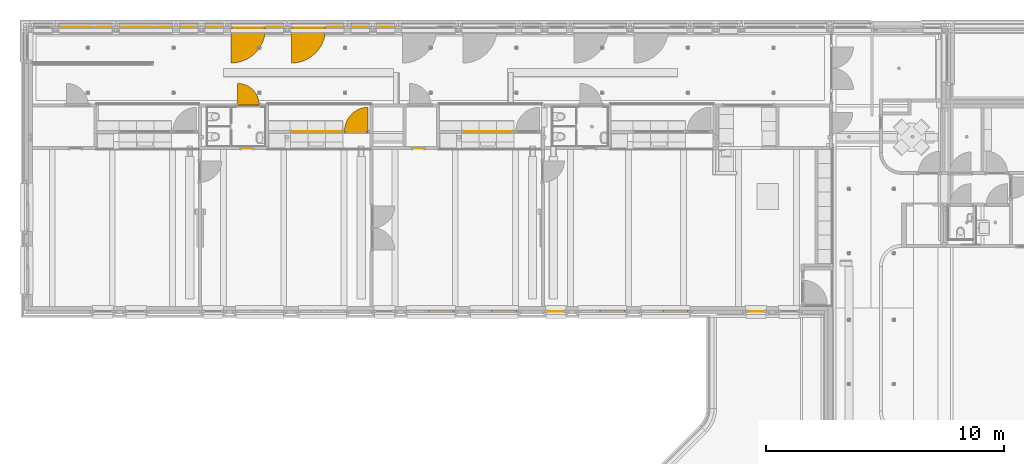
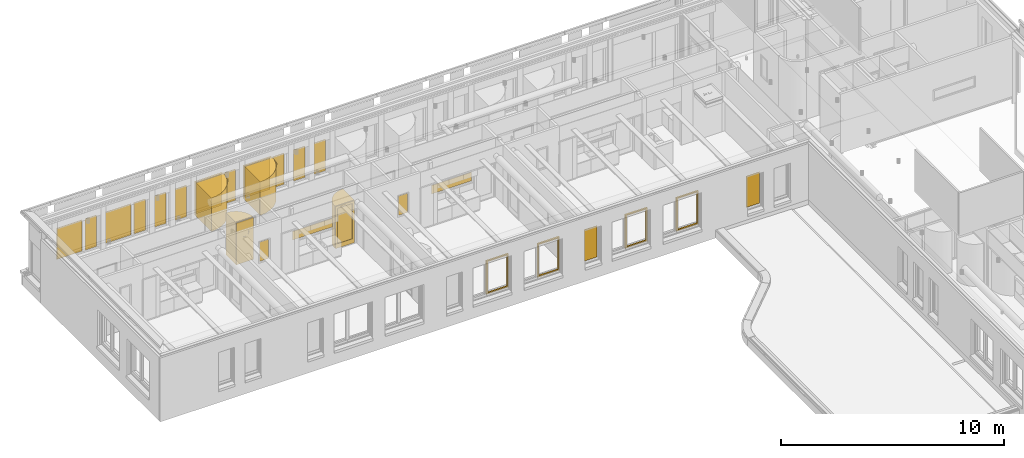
# One storey, part 68 of 128: 29 windows, 2 doors, 8 elements without a shape of their own.
"""IFC2X3 building model written with IfcOpenShell, lengths in millimetres."""

from ifc_helpers import new_model, entity, si_unit, converted_unit, derived_unit, direction, frame, frame_2d, origin, origin_2d_with_axis, place, context, subcontext, project, spatial, polyline, circle_curve, parameter, trimmed, segment, composite_curve, rectangle, circle, outline, extrude, source, transform, mapped, material, material_list, type_object, type_shapes, element, aggregate, save


model = new_model("IFC2X3")

# Units and contexts
model_context = context("Model", 3, precision=0.01, world=origin(), true_north=direction((6.123031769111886e-17, 1.0)))
body_context = subcontext(model_context, "Body", "Model", "MODEL_VIEW")
ifc_project = project(units=[si_unit("LENGTHUNIT", "METRE", prefix="MILLI"), si_unit("AREAUNIT", "SQUARE_METRE"), si_unit("VOLUMEUNIT", "CUBIC_METRE"), converted_unit("PLANEANGLEUNIT", "DEGREE", entity("IfcRatioMeasure", 0.017453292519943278), si_unit("PLANEANGLEUNIT", "RADIAN"), dimensions=[0, 0, 0, 0, 0, 0, 0]), si_unit("MASSUNIT", "GRAM", prefix="KILO"), derived_unit("MASSDENSITYUNIT", [(si_unit("MASSUNIT", "GRAM", prefix="KILO"), 1), (si_unit("LENGTHUNIT", "METRE"), -3)]), derived_unit("IONCONCENTRATIONUNIT", [(si_unit("MASSUNIT", "GRAM", prefix="KILO"), 1), (si_unit("LENGTHUNIT", "METRE"), -3)]), derived_unit("MOMENTOFINERTIAUNIT", [(si_unit("LENGTHUNIT", "METRE"), 4)]), si_unit("TIMEUNIT", "SECOND"), si_unit("FREQUENCYUNIT", "HERTZ"), si_unit("THERMODYNAMICTEMPERATUREUNIT", "DEGREE_CELSIUS"), derived_unit("THERMALTRANSMITTANCEUNIT", [(si_unit("MASSUNIT", "GRAM", prefix="KILO"), 1), (si_unit("THERMODYNAMICTEMPERATUREUNIT", "KELVIN"), -1), (si_unit("TIMEUNIT", "SECOND"), -3)]), derived_unit("THERMALCONDUCTANCEUNIT", [(si_unit("MASSUNIT", "GRAM", prefix="KILO"), 1), (si_unit("THERMODYNAMICTEMPERATUREUNIT", "KELVIN"), -1), (si_unit("TIMEUNIT", "SECOND"), -3), (si_unit("LENGTHUNIT", "METRE"), 1)]), derived_unit("VOLUMETRICFLOWRATEUNIT", [(si_unit("LENGTHUNIT", "METRE"), 3), (si_unit("TIMEUNIT", "SECOND"), -1)]), derived_unit("MASSFLOWRATEUNIT", [(si_unit("MASSUNIT", "GRAM", prefix="KILO"), 1), (si_unit("TIMEUNIT", "SECOND"), -1)]), derived_unit("ROTATIONALFREQUENCYUNIT", [(si_unit("TIMEUNIT", "SECOND"), -1)]), si_unit("ELECTRICCURRENTUNIT", "AMPERE"), si_unit("ELECTRICVOLTAGEUNIT", "VOLT"), si_unit("POWERUNIT", "WATT"), si_unit("FORCEUNIT", "NEWTON", prefix="KILO"), si_unit("ILLUMINANCEUNIT", "LUX"), si_unit("LUMINOUSFLUXUNIT", "LUMEN"), si_unit("LUMINOUSINTENSITYUNIT", "CANDELA"), derived_unit("USERDEFINED", [(si_unit("MASSUNIT", "GRAM", prefix="KILO"), -1), (si_unit("LENGTHUNIT", "METRE"), -2), (si_unit("TIMEUNIT", "SECOND"), 3), (si_unit("LUMINOUSFLUXUNIT", "LUMEN"), 1)]), derived_unit("USERDEFINED", [(si_unit("MASSUNIT", "GRAM", prefix="KILO"), 1), (si_unit("TIMEUNIT", "SECOND"), -3), (si_unit("LENGTHUNIT", "METRE"), 3), (si_unit("ELECTRICCURRENTUNIT", "AMPERE"), -2)]), derived_unit("SOUNDPOWERUNIT", [(si_unit("MASSUNIT", "GRAM", prefix="KILO"), 1), (si_unit("TIMEUNIT", "SECOND"), -3), (si_unit("LENGTHUNIT", "METRE"), 2)]), derived_unit("SOUNDPRESSUREUNIT", [(si_unit("MASSUNIT", "GRAM", prefix="KILO"), 1), (si_unit("LENGTHUNIT", "METRE"), -1), (si_unit("TIMEUNIT", "SECOND"), -2)]), derived_unit("LINEARVELOCITYUNIT", [(si_unit("LENGTHUNIT", "METRE"), 1), (si_unit("TIMEUNIT", "SECOND"), -1)]), si_unit("PRESSUREUNIT", "PASCAL"), derived_unit("USERDEFINED", [(si_unit("MASSUNIT", "GRAM", prefix="KILO"), 1), (si_unit("LENGTHUNIT", "METRE"), -2), (si_unit("TIMEUNIT", "SECOND"), -2)]), derived_unit("LINEARFORCEUNIT", [(si_unit("MASSUNIT", "GRAM", prefix="KILO"), 1), (si_unit("TIMEUNIT", "SECOND"), -2)]), derived_unit("PLANARFORCEUNIT", [(si_unit("MASSUNIT", "GRAM", prefix="KILO"), 1), (si_unit("LENGTHUNIT", "METRE"), -1), (si_unit("TIMEUNIT", "SECOND"), -2)]), derived_unit("SPECIFICHEATCAPACITYUNIT", [(si_unit("THERMODYNAMICTEMPERATUREUNIT", "KELVIN"), -1), (si_unit("LENGTHUNIT", "METRE"), 2), (si_unit("TIMEUNIT", "SECOND"), -2)]), derived_unit("HEATINGVALUEUNIT", [(si_unit("LENGTHUNIT", "METRE"), 2), (si_unit("TIMEUNIT", "SECOND"), -2)]), derived_unit("VAPORPERMEABILITYUNIT", [(si_unit("LENGTHUNIT", "METRE"), -1), (si_unit("TIMEUNIT", "SECOND"), 1)]), derived_unit("DYNAMICVISCOSITYUNIT", [(si_unit("MASSUNIT", "GRAM", prefix="KILO"), 1), (si_unit("TIMEUNIT", "SECOND"), -1), (si_unit("LENGTHUNIT", "METRE"), -1)]), derived_unit("THERMALEXPANSIONCOEFFICIENTUNIT", [(si_unit("THERMODYNAMICTEMPERATUREUNIT", "KELVIN"), -1)]), derived_unit("MODULUSOFELASTICITYUNIT", [(si_unit("MASSUNIT", "GRAM", prefix="KILO"), 1), (si_unit("LENGTHUNIT", "METRE"), -1), (si_unit("TIMEUNIT", "SECOND"), -2)]), derived_unit("ISOTHERMALMOISTURECAPACITYUNIT", [(si_unit("LENGTHUNIT", "METRE"), 3), (si_unit("MASSUNIT", "GRAM", prefix="KILO"), -1)]), derived_unit("MOISTUREDIFFUSIVITYUNIT", [(si_unit("TIMEUNIT", "SECOND"), -1), (si_unit("LENGTHUNIT", "METRE"), 2)])], contexts=[model_context])

# Site, building, storey
site_placement = place(None, frame((0.0, 300.0, 0.0)))
site = spatial("IfcSite", under=ifc_project, at=site_placement, Name="<Kadastrale nummers>", CompositionType="ELEMENT")
building_placement = place(site_placement, origin())
building = spatial("IfcBuilding", under=site, at=building_placement, CompositionType="ELEMENT")
storey_placement = place(building_placement, frame((0.0, 0.0, 3560.0000331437)))
storey = spatial("IfcBuildingStorey", under=building, at=storey_placement, Name="01 eerste verdieping", CompositionType="ELEMENT", Elevation=3560.0000331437)

# Window
ifc_material_1 = material(Name="Clearance Zones")
window_style_1 = type_object("IfcWindowStyle", Name="BU deur links:BU deur links", ConstructionType="NOTDEFINED", OperationType="NOTDEFINED", ParameterTakesPrecedence=False, Sizeable=False, material=ifc_material_1)
shared_shape_1 = source(origin(), body_context, "Body", "SweptSolid", [
    extrude(outline(composite_curve([segment(trimmed(circle_curve(frame_2d((300.0, 300.0), x_axis=(1.0, 0.0)), 900.0000000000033), [parameter(180.00000000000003)], [parameter(269.9999999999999)], True, "PARAMETER"), True, "CONTINUOUS"), segment(polyline([(300.0, -600.0), (300.0, 300.0)]), True, "CONTINUOUS"), segment(polyline([(300.0, 300.0), (-600.0, 300.0)]), True, "CONTINUOUS")], self_intersect=False)), frame((-150.0, 327.0, -20.0), z_axis=(0.0, 0.0, 1.0), x_axis=(-1.0, 0.0, 0.0)), (0.0, 0.0, 1.0), 2303.0000000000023),
])
type_shapes(window_style_1, [shared_shape_1])
window_1_placement = place(storey_placement, frame((12169.001376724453, 46633.249999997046, 130.00000187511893)))
element("IfcWindow", 1, at=window_1_placement, inside=storey, type_object=window_style_1, material=ifc_material_1, Name="BU deur links:BU deur links", ObjectType="BU deur links:BU deur links", OverallHeight=1184.0000000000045, OverallWidth=900.0000000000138, context=body_context, shape_type="MappedRepresentation", body=[
    mapped(shared_shape_1, transform((0.0, 0.0, 0.0), scale=1.0)),
])

# Curtain wall, door
curtain_wall_type_1 = type_object("IfcCurtainWallType", Name="Curtain Wall:Merk H09", PredefinedType="NOTDEFINED")
curtain_wall_1_placement = place(storey_placement, frame((0.0, 0.0, -3560.0000331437)))
curtain_wall_1 = element("IfcCurtainWall", 2, at=curtain_wall_1_placement, inside=storey, type_object=curtain_wall_type_1, Name="Curtain Wall:Merk H09", ObjectType="Curtain Wall:Merk H09")
ifc_material_2 = material(Name="ISR_HPL Kleur hout")
door_style_1 = type_object("IfcDoorStyle", Name="31_DO_deur_met_stapeldorpel:deur_met_stapeldorpel", ConstructionType="NOTDEFINED", OperationType="NOTDEFINED", ParameterTakesPrecedence=False, Sizeable=False, material=ifc_material_2)
shared_shape_2 = source(origin(), body_context, "Body", "SweptSolid", [
    extrude(outline(polyline([(-500.0, -1151.4999999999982), (500.0, -1151.4999999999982), (500.0, 1151.4999999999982), (-500.0, 1151.4999999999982), (-500.0, -1151.4999999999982)]), holes=[polyline([(-380.0, 911.499999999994), (380.0, 911.4999999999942), (380.0, -1031.4999999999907), (-380.0, -1031.499999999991), (-380.0, 911.499999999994)])]), frame((0.0, 57.0, 1151.5000000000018), z_axis=(0.0, 1.0, 0.0), x_axis=(1.0, 0.0, 0.0)), (0.0, 0.0, 1.0), 26.999999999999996),
    extrude(outline(polyline([(-500.0, -1151.4999999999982), (500.0, -1151.4999999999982), (500.0, 1151.4999999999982), (-500.0, 1151.4999999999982), (-500.0, -1151.4999999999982)]), holes=[polyline([(-380.0, 911.4999999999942), (380.0, 911.4999999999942), (380.0, -1031.4999999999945), (-380.0, -1031.4999999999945), (-380.0, 911.4999999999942)])]), frame((0.0, 30.0, 1151.5000000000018), z_axis=(0.0, 1.0, 0.0), x_axis=(1.0, 0.0, 0.0)), (0.0, 0.0, 1.0), 26.99999999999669),
])
type_shapes(door_style_1, [shared_shape_2])
door_1_placement = place(curtain_wall_1_placement, frame((16703.0, 45476.0, 3670.0000350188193)))
door_1 = element("IfcDoor", 3, at=door_1_placement, type_object=door_style_1, material=ifc_material_2, Name="31_DO_deur_met_stapeldorpel:deur_met_stapeldorpel", ObjectType="31_DO_deur_met_stapeldorpel:deur_met_stapeldorpel", OverallHeight=2303.0000000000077, OverallWidth=1000.0000000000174, context=body_context, shape_type="MappedRepresentation", body=[
    mapped(shared_shape_2, transform((0.0, 0.0, 0.0), scale=1.0)),
])
aggregate(curtain_wall_1, [door_1])

curtain_wall_type_2 = type_object("IfcCurtainWallType", Name="Curtain Wall:Merk H01", PredefinedType="NOTDEFINED")
curtain_wall_2_placement = place(storey_placement, frame((0.0, 0.0, -3560.0000331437)))
curtain_wall_2 = element("IfcCurtainWall", 4, at=curtain_wall_2_placement, inside=storey, type_object=curtain_wall_type_2, Name="Curtain Wall:Merk H01", ObjectType="Curtain Wall:Merk H01")
ifc_material_3 = material(Name="ISR_Kunststof_wit")
ifc_material_4 = material(Name="ISR_Mass_Glazing")
ifc_material_list = material_list([ifc_material_3, ifc_material_4])
door_style_2 = type_object("IfcDoorStyle", Name="31_DO_Rondgat_deur:dichte_deur", ConstructionType="NOTDEFINED", OperationType="NOTDEFINED", ParameterTakesPrecedence=False, Sizeable=False, material=ifc_material_list)
shared_shape_3 = source(origin(), body_context, "Body", "SweptSolid", [
    extrude(outline(polyline([(-450.0, -1151.5000000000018), (450.0, -1151.5000000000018), (450.0, 1151.4999999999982), (-450.0, 1151.5000000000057), (-450.0, -1151.5000000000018)]), holes=[composite_curve([segment(trimmed(circle_curve(frame_2d((0.0, -448.5000000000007), x_axis=(1.0, 0.0)), 200.0), [parameter(4.0711099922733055e-13)], [parameter(179.99999999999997)], True, "PARAMETER"), False, "CONTINUOUS"), segment(trimmed(circle_curve(frame_2d((0.0, -448.5000000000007), x_axis=(1.0, 0.0)), 200.0), [parameter(179.99999999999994)], [parameter(359.9999999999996)], True, "PARAMETER"), False, "CONTINUOUS")], self_intersect=False)]), frame((0.0, 57.0, 1151.5000000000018), z_axis=(0.0, -1.0, 0.0), x_axis=(-1.0, 0.0, 0.0)), (0.0, 0.0, 1.0), 26.999999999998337),
    extrude(outline(polyline([(-450.0, -1151.500000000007), (450.0, -1151.500000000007), (450.0, 1151.499999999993), (-450.0, 1151.5000000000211), (-450.0, -1151.500000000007)]), holes=[composite_curve([segment(trimmed(circle_curve(frame_2d((0.0, -448.49999999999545), x_axis=(1.0, 0.0)), 200.0), [parameter(4.0711099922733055e-13)], [parameter(179.99999999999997)], True, "PARAMETER"), False, "CONTINUOUS"), segment(trimmed(circle_curve(frame_2d((0.0, -448.49999999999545), x_axis=(1.0, 0.0)), 200.0), [parameter(179.99999999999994)], [parameter(359.9999999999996)], True, "PARAMETER"), False, "CONTINUOUS")], self_intersect=False)]), frame((0.0, 84.0, 1151.500000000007), z_axis=(0.0, -1.0, 0.0), x_axis=(-1.0, 0.0, 0.0)), (0.0, 0.0, 1.0), 26.999999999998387),
    extrude(circle(Radius=200.0, at=frame_2d((0.0, -2.707167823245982e-13), x_axis=(1.0, 0.0))), frame((0.0, 66.449031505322, 1600.0), z_axis=(0.0, -1.0, 0.0), x_axis=(1.0, 0.0, 0.0)), (0.0, 0.0, 1.0), 25.1297239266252),
])
type_shapes(door_style_2, [shared_shape_3])
door_2_placement = place(curtain_wall_2_placement, frame((12169.00137672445, 46606.0, 3670.00003501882)))
door_2 = element("IfcDoor", 5, at=door_2_placement, type_object=door_style_2, material=ifc_material_list, Name="31_DO_Rondgat_deur:dichte_deur", ObjectType="31_DO_Rondgat_deur:dichte_deur", OverallHeight=2303.000000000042, OverallWidth=900.0000000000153, context=body_context, shape_type="MappedRepresentation", body=[
    mapped(shared_shape_3, transform((0.0, 0.0, 0.0), scale=1.0)),
])
aggregate(curtain_wall_2, [door_2])

# Windows
ifc_material_5 = material(Name="glas_enscape")
window_style_2 = type_object("IfcWindowStyle", Name="WI_subvak1:glas 4", ConstructionType="NOTDEFINED", OperationType="NOTDEFINED", ParameterTakesPrecedence=False, Sizeable=False, material=ifc_material_5)
shared_shape_4 = source(origin(), body_context, "Body", "SweptSolid", [
    extrude(rectangle(XDim=24.000000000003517, YDim=466.0000000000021, at=origin_2d_with_axis()), frame((0.0, 0.0, 0.0), z_axis=(0.0, 0.0, 1.0), x_axis=(0.0, -1.0, 0.0)), (0.0, 0.0, 1.0), 1055.9999999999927),
])
type_shapes(window_style_2, [shared_shape_4])
for number, where, z_axis, x_axis, name in (
    (6, (19305.0, 44832.0, 1357.0), (0.0, 0.0, 1.0), (-1.0, 0.0, 0.0), "WI_subvak1:glas 4"),
    (7, (12105.0, 44832.0, 1357.0), (0.0, 0.0, 1.0), (-1.0, 0.0, 0.0), "WI_subvak1:glas 4"),
):
    element("IfcWindow", number, at=place(storey_placement, frame(where, z_axis=z_axis, x_axis=x_axis)), inside=storey, type_object=window_style_2, material=ifc_material_5, Name=name, ObjectType="WI_subvak1:glas 4", OverallHeight=609.9286498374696, OverallWidth=466.00000000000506, context=body_context, shape_type="MappedRepresentation", body=[
        mapped(shared_shape_4, transform((0.0, 0.0, 0.0), scale=1.0)),
    ])
window_style_3 = type_object("IfcWindowStyle", Name="WI_subvak1:glas 4", ConstructionType="NOTDEFINED", OperationType="NOTDEFINED", ParameterTakesPrecedence=False, Sizeable=False, material=ifc_material_5)
shared_shape_5 = source(origin(), body_context, "Body", "SweptSolid", [
    extrude(rectangle(XDim=24.000000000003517, YDim=2071.0000000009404, at=frame_2d((0.0, 1.1368683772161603e-13), x_axis=(1.0, 0.0))), frame((0.0, 0.0, 0.0), z_axis=(0.0, 0.0, 1.0), x_axis=(0.0, -1.0, 0.0)), (0.0, 0.0, 1.0), 465.9999999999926),
])
type_shapes(window_style_3, [shared_shape_5])
for number, where, name in (
    (8, (22233.499999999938, 45533.0, 1357.0), "WI_subvak1:glas 4"),
    (9, (15033.500000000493, 45533.0, 1357.0), "WI_subvak1:glas 4"),
):
    element("IfcWindow", number, at=place(storey_placement, frame(where)), inside=storey, type_object=window_style_3, material=ifc_material_5, Name=name, ObjectType="WI_subvak1:glas 4", OverallHeight=609.9286498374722, OverallWidth=2071.0000000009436, context=body_context, shape_type="MappedRepresentation", body=[
        mapped(shared_shape_5, transform((0.0, 0.0, 0.0), scale=1.0)),
    ])
window_style_4 = type_object("IfcWindowStyle", Name="WI_subvak1:glas 2", ConstructionType="NOTDEFINED", OperationType="NOTDEFINED", ParameterTakesPrecedence=False, Sizeable=False, material=ifc_material_5)
shared_shape_6 = source(origin(), body_context, "Body", "SweptSolid", [
    extrude(rectangle(XDim=24.000000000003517, YDim=759.9999999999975, at=frame_2d((0.0, -2.842170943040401e-14), x_axis=(1.0, 0.0))), frame((0.0, 0.0, 0.0), z_axis=(0.0, 0.0, 1.0), x_axis=(0.0, -1.0, 0.0)), (0.0, 0.0, 1.0), 1942.999999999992),
])
type_shapes(window_style_4, [shared_shape_6])
window_2_placement = place(storey_placement, frame((16703.0, 45533.0, 350.00000187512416)))
element("IfcWindow", 10, at=window_2_placement, inside=storey, type_object=window_style_4, material=ifc_material_5, Name="WI_subvak1:glas 2", ObjectType="WI_subvak1:glas 2", OverallHeight=609.9286498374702, OverallWidth=760.0000000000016, context=body_context, shape_type="MappedRepresentation", body=[
    mapped(shared_shape_6, transform((0.0, 0.0, 0.0), scale=1.0)),
])
window_style_5 = type_object("IfcWindowStyle", Name="BU deur links:BU deur links", ConstructionType="NOTDEFINED", OperationType="NOTDEFINED", ParameterTakesPrecedence=False, Sizeable=False, material=ifc_material_1)
shared_shape_7 = source(origin(), body_context, "Body", "SweptSolid", [
    extrude(outline(composite_curve([segment(polyline([(-666.6666666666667, -333.33333333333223), (333.3333333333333, -333.33333333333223)]), True, "CONTINUOUS"), segment(polyline([(333.3333333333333, -333.33333333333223), (333.33333333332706, 666.6666666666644)]), True, "CONTINUOUS"), segment(trimmed(circle_curve(frame_2d((333.3333333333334, -333.33333333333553), x_axis=(1.0, 0.0)), 1000.0000000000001), [parameter(90.00000000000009)], [parameter(179.99999999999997)], True, "PARAMETER"), True, "CONTINUOUS")], self_intersect=False)), frame((-166.66666666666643, -360.3333333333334, -20.0), z_axis=(0.0, 0.0, 1.0), x_axis=(-1.0, 0.0, 0.0)), (0.0, 0.0, 1.0), 2303.0000000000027),
])
type_shapes(window_style_5, [shared_shape_7])
window_3_placement = place(storey_placement, frame((16703.0, 45533.0, 130.00000187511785), z_axis=(0.0, 0.0, 1.0), x_axis=(-1.0, 0.0, 0.0)))
element("IfcWindow", 11, at=window_3_placement, inside=storey, type_object=window_style_5, material=ifc_material_1, Name="BU deur links:BU deur links", ObjectType="BU deur links:BU deur links", OverallHeight=1284.0000000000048, OverallWidth=1000.0000000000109, context=body_context, shape_type="MappedRepresentation", body=[
    mapped(shared_shape_7, transform((0.0, 0.0, 0.0), scale=1.0)),
])

# Curtain wall, window
curtain_wall_type_3 = type_object("IfcCurtainWallType", Name="Curtain Wall:K_22", PredefinedType="NOTDEFINED")
curtain_wall_3_placement = place(storey_placement, frame((0.0, 0.0, -3560.0000331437)))
curtain_wall_3 = element("IfcCurtainWall", 12, at=curtain_wall_3_placement, inside=storey, type_object=curtain_wall_type_3, Name="Curtain Wall:K_22", ObjectType="Curtain Wall:K_22")
ifc_material_6 = material(Name="ISR_Aluminium")
window_style_6 = type_object("IfcWindowStyle", Name="31_WI_raam_1:GEALAN KUBUS RAAM", ConstructionType="NOTDEFINED", OperationType="NOTDEFINED", ParameterTakesPrecedence=False, Sizeable=False, material=ifc_material_6)
shared_shape_8 = source(origin(), body_context, "Body", "SweptSolid", [
    extrude(outline(polyline([(-717.0, -918.9999824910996), (717.0, -918.9999824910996), (717.0, 918.9999824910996), (-717.0, 918.9999824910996), (-717.0, -918.9999824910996)]), holes=[polyline([(-653.0, 854.9999824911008), (653.0, 854.9999824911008), (653.0, -854.9999824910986), (-653.0, -854.9999824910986), (-653.0, 854.9999824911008)])]), frame((0.0, 63.0, 854.9999824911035), z_axis=(0.0, -1.0, 0.0), x_axis=(-1.0, 0.0, 0.0)), (0.0, 0.0, 1.0), 40.50000000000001),
    extrude(outline(polyline([(-717.0, -918.9999824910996), (717.0, -918.9999824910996), (717.0, 918.9999824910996), (-717.0, 918.9999824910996), (-717.0, -918.9999824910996)]), holes=[polyline([(-653.0, 854.9999824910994), (653.0, 854.9999824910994), (653.0, -854.9999824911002), (-653.0, -854.9999824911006), (-653.0, 854.9999824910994)])]), frame((0.0, 22.499999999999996, 854.9999824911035), z_axis=(0.0, -1.0, 0.0), x_axis=(-1.0, 0.0, 0.0)), (0.0, 0.0, 1.0), 40.5),
])
type_shapes(window_style_6, [shared_shape_8])
window_4_placement = place(curtain_wall_3_placement, frame((14693.0, 49868.0, 4580.0000331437)))
window_4 = element("IfcWindow", 13, at=window_4_placement, type_object=window_style_6, material=ifc_material_6, Name="31_WI_raam_1:GEALAN KUBUS RAAM", ObjectType="31_WI_raam_1:GEALAN KUBUS RAAM", OverallHeight=1853.9999649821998, OverallWidth=1434.0000000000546, context=body_context, shape_type="MappedRepresentation", body=[
    mapped(shared_shape_8, transform((0.0, 0.0, 0.0), scale=1.0)),
])
aggregate(curtain_wall_3, [window_4])

curtain_wall_4_placement = place(storey_placement, frame((0.0, 0.0, -3560.0000331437)))
curtain_wall_4 = element("IfcCurtainWall", 14, at=curtain_wall_4_placement, inside=storey, type_object=curtain_wall_type_3, Name="Curtain Wall:K_22", ObjectType="Curtain Wall:K_22")
window_5_placement = place(curtain_wall_4_placement, frame((12163.0, 49868.0, 4580.0000331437)))
window_5 = element("IfcWindow", 15, at=window_5_placement, type_object=window_style_6, material=ifc_material_6, Name="31_WI_raam_1:GEALAN KUBUS RAAM", ObjectType="31_WI_raam_1:GEALAN KUBUS RAAM", OverallHeight=1853.9999649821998, OverallWidth=1434.0000000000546, context=body_context, shape_type="MappedRepresentation", body=[
    mapped(shared_shape_8, transform((0.0, 0.0, 0.0), scale=1.0)),
])
aggregate(curtain_wall_4, [window_5])

curtain_wall_type_4 = type_object("IfcCurtainWallType", Name="Curtain Wall:K_24", PredefinedType="NOTDEFINED")
curtain_wall_5_placement = place(storey_placement, frame((0.0, 0.0, -3560.0000331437)))
curtain_wall_5 = element("IfcCurtainWall", 16, at=curtain_wall_5_placement, inside=storey, type_object=curtain_wall_type_4, Name="Curtain Wall:K_24", ObjectType="Curtain Wall:K_24")
window_style_7 = type_object("IfcWindowStyle", Name="31_WI_raam_1:GEALAN KUBUS RAAM", ConstructionType="NOTDEFINED", OperationType="NOTDEFINED", ParameterTakesPrecedence=False, Sizeable=False, material=ifc_material_6)
shared_shape_9 = source(origin(), body_context, "Body", "SweptSolid", [
    extrude(outline(polyline([(-567.0, -919.0), (567.0, -919.0), (567.0, 919.0), (-567.0, 919.0), (-567.0, -919.0)]), holes=[polyline([(-503.0, 855.0), (503.0, 855.0), (503.0, -855.0), (-503.0, -855.0), (-503.0, 855.0)])]), frame((0.0, 63.0, 855.0), z_axis=(0.0, -1.0, 0.0), x_axis=(-1.0, 0.0, 0.0)), (0.0, 0.0, 1.0), 40.50000000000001),
    extrude(outline(polyline([(-567.0, -919.0), (567.0, -919.0), (567.0, 919.0), (-567.0, 919.0), (-567.0, -919.0)]), holes=[polyline([(-503.0, 855.0), (503.0, 855.0), (503.0, -855.0), (-503.0, -855.0), (-503.0, 855.0)])]), frame((0.0, 22.499999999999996, 855.0), z_axis=(0.0, -1.0, 0.0), x_axis=(-1.0, 0.0, 0.0)), (0.0, 0.0, 1.0), 40.5),
])
type_shapes(window_style_7, [shared_shape_9])
window_6_placement = place(curtain_wall_5_placement, frame((22907.0, 38031.99862327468, 4580.0000331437), z_axis=(0.0, 0.0, 1.0), x_axis=(-1.0, 0.0, 0.0)))
window_6 = element("IfcWindow", 17, at=window_6_placement, type_object=window_style_7, material=ifc_material_6, Name="31_WI_raam_1:GEALAN KUBUS RAAM", ObjectType="31_WI_raam_1:GEALAN KUBUS RAAM", OverallHeight=1854.0000000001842, OverallWidth=1134.0000000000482, context=body_context, shape_type="MappedRepresentation", body=[
    mapped(shared_shape_9, transform((0.0, 0.0, 0.0), scale=1.0)),
])
aggregate(curtain_wall_5, [window_6])

curtain_wall_6_placement = place(storey_placement, frame((0.0, 0.0, -3560.0000331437)))
curtain_wall_6 = element("IfcCurtainWall", 18, at=curtain_wall_6_placement, inside=storey, type_object=curtain_wall_type_4, Name="Curtain Wall:K_24", ObjectType="Curtain Wall:K_24")
window_7_placement = place(curtain_wall_6_placement, frame((20257.0, 38031.99862327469, 4580.0000331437), z_axis=(0.0, 0.0, 1.0), x_axis=(-1.0, 0.0, 0.0)))
window_7 = element("IfcWindow", 19, at=window_7_placement, type_object=window_style_7, material=ifc_material_6, Name="31_WI_raam_1:GEALAN KUBUS RAAM", ObjectType="31_WI_raam_1:GEALAN KUBUS RAAM", OverallHeight=1854.0000000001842, OverallWidth=1134.0000000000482, context=body_context, shape_type="MappedRepresentation", body=[
    mapped(shared_shape_9, transform((0.0, 0.0, 0.0), scale=1.0)),
])
aggregate(curtain_wall_6, [window_7])

curtain_wall_7_placement = place(storey_placement, frame((0.0, 0.0, -3560.0000331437)))
curtain_wall_7 = element("IfcCurtainWall", 20, at=curtain_wall_7_placement, inside=storey, type_object=curtain_wall_type_4, Name="Curtain Wall:K_24", ObjectType="Curtain Wall:K_24")
window_8_placement = place(curtain_wall_7_placement, frame((30107.0, 38031.99862327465, 4580.0000331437), z_axis=(0.0, 0.0, 1.0), x_axis=(-1.0, 0.0, 0.0)))
window_8 = element("IfcWindow", 21, at=window_8_placement, type_object=window_style_7, material=ifc_material_6, Name="31_WI_raam_1:GEALAN KUBUS RAAM", ObjectType="31_WI_raam_1:GEALAN KUBUS RAAM", OverallHeight=1854.0000000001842, OverallWidth=1134.0000000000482, context=body_context, shape_type="MappedRepresentation", body=[
    mapped(shared_shape_9, transform((0.0, 0.0, 0.0), scale=1.0)),
])
aggregate(curtain_wall_7, [window_8])

curtain_wall_8_placement = place(storey_placement, frame((0.0, 0.0, -3560.0000331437)))
curtain_wall_8 = element("IfcCurtainWall", 22, at=curtain_wall_8_placement, inside=storey, type_object=curtain_wall_type_4, Name="Curtain Wall:K_24", ObjectType="Curtain Wall:K_24")
window_9_placement = place(curtain_wall_8_placement, frame((27457.0, 38031.998623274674, 4580.0000331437), z_axis=(0.0, 0.0, 1.0), x_axis=(-1.0, 0.0, 0.0)))
window_9 = element("IfcWindow", 23, at=window_9_placement, type_object=window_style_7, material=ifc_material_6, Name="31_WI_raam_1:GEALAN KUBUS RAAM", ObjectType="31_WI_raam_1:GEALAN KUBUS RAAM", OverallHeight=1854.0000000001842, OverallWidth=1134.0000000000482, context=body_context, shape_type="MappedRepresentation", body=[
    mapped(shared_shape_9, transform((0.0, 0.0, 0.0), scale=1.0)),
])
aggregate(curtain_wall_8, [window_9])

# Windows
window_style_8 = type_object("IfcWindowStyle", Name="WI_subvak1:glas 4", ConstructionType="NOTDEFINED", OperationType="NOTDEFINED", ParameterTakesPrecedence=False, Sizeable=False, material=ifc_material_5)
shared_shape_10 = source(origin(), body_context, "Body", "SweptSolid", [
    extrude(rectangle(XDim=680.000000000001, YDim=24.00000000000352, at=origin_2d_with_axis()), origin(), (0.0, 0.0, 1.0), 1710.0000000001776),
])
type_shapes(window_style_8, [shared_shape_10])
for number, where, name in (
    (24, (25080.0, 37975.0, 1020.0), "WI_subvak1:glas 4"),
    (25, (33494.0, 37975.0, 1020.0), "WI_subvak1:glas 4"),
):
    element("IfcWindow", number, at=place(storey_placement, frame(where)), inside=storey, type_object=window_style_8, material=ifc_material_5, Name=name, ObjectType="WI_subvak1:glas 4", OverallHeight=609.9286498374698, OverallWidth=680.0000000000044, context=body_context, shape_type="MappedRepresentation", body=[
        mapped(shared_shape_10, transform((0.0, 0.0, 0.0), scale=1.0)),
    ])
window_style_9 = type_object("IfcWindowStyle", Name="WI_subvak1:glas 4", ConstructionType="NOTDEFINED", OperationType="NOTDEFINED", ParameterTakesPrecedence=False, Sizeable=False, material=ifc_material_5)
shared_shape_11 = source(origin(), body_context, "Body", "SweptSolid", [
    extrude(rectangle(XDim=590.000000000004, YDim=24.00000000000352, at=frame_2d((0.0, -1.7763568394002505e-15), x_axis=(1.0, 0.0))), origin(), (0.0, 0.0, 1.0), 1709.9999649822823),
])
type_shapes(window_style_9, [shared_shape_11])
for number, where, z_axis, x_axis, name in (
    (26, (17935.0, 49925.0, 1020.0), (0.0, 0.0, 1.0), (-1.0, 0.0, 0.0), "WI_subvak1:glas 4"),
    (27, (16865.0, 49925.0, 1020.0), (0.0, 0.0, 1.0), (-1.0, 0.0, 0.0), "WI_subvak1:glas 4"),
    (28, (10735.0, 49925.0, 1020.0), (0.0, 0.0, 1.0), (-1.0, 0.0, 0.0), "WI_subvak1:glas 4"),
    (29, (9665.0, 49925.0, 1020.0), (0.0, 0.0, 1.0), (-1.0, 0.0, 0.0), "WI_subvak1:glas 4"),
    (30, (15795.0, 49925.0, 1020.0), (0.0, 0.0, 1.0), (-1.0, 0.0, 0.0), "WI_subvak1:glas 4"),
    (31, (13265.0, 49925.0, 1020.0), (0.0, 0.0, 1.0), (-1.0, 0.0, 0.0), "WI_subvak1:glas 4"),
    (32, (6065.0, 49925.0, 1020.0), (0.0, 0.0, 1.0), (-1.0, 0.0, 0.0), "WI_subvak1:glas 4"),
    (33, (8595.0, 49925.0, 1020.0), (0.0, 0.0, 1.0), (-1.0, 0.0, 0.0), "WI_subvak1:glas 4"),
):
    element("IfcWindow", number, at=place(storey_placement, frame(where, z_axis=z_axis, x_axis=x_axis)), inside=storey, type_object=window_style_9, material=ifc_material_5, Name=name, ObjectType="WI_subvak1:glas 4", OverallHeight=609.9286498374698, OverallWidth=590.0000000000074, context=body_context, shape_type="MappedRepresentation", body=[
        mapped(shared_shape_11, transform((0.0, 0.0, 0.0), scale=1.0)),
    ])
window_style_10 = type_object("IfcWindowStyle", Name="BI draai-val rechts:BI draai-val rechts", ConstructionType="NOTDEFINED", OperationType="NOTDEFINED", ParameterTakesPrecedence=False, Sizeable=False, material=ifc_material_1)
shared_shape_12 = source(origin(), body_context, "Body", "SweptSolid", [
    extrude(outline(composite_curve([segment(trimmed(circle_curve(frame_2d((1204.4571999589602, 158.5697986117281), x_axis=(1.0, 0.0)), 1837.999964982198), [parameter(180.00000000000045)], [parameter(195.00000000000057)], True, "PARAMETER"), True, "CONTINUOUS"), segment(polyline([(-570.914434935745, -317.1395972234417), (1204.4571999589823, 158.56979861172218)]), True, "CONTINUOUS"), segment(polyline([(1204.4571999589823, 158.56979861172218), (-633.5427650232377, 158.56979861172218)]), True, "CONTINUOUS")], self_intersect=False)), frame((-717.0, -199.06979861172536, 1184.4571999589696), z_axis=(1.0, 0.0, 0.0), x_axis=(0.0, 0.0, -1.0)), (0.0, 0.0, 1.0), 1434.0000000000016),
    extrude(outline(composite_curve([segment(polyline([(-956.0, -478.0), (478.0, -478.0)]), True, "CONTINUOUS"), segment(polyline([(478.0, -478.0), (478.0, 956.0)]), True, "CONTINUOUS"), segment(trimmed(circle_curve(frame_2d((478.0, -478.0), x_axis=(-1.0, 0.0)), 1434.000000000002), [parameter(270.0000000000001)], [parameter(0.0)], True, "PARAMETER"), True, "CONTINUOUS")], self_intersect=False)), frame((-239.0, -518.5000000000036, -20.0), z_axis=(0.0, 0.0, 1.0), x_axis=(-1.0, 0.0, 0.0)), (0.0, 0.0, 1.0), 1837.999964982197),
])
type_shapes(window_style_10, [shared_shape_12])
for number, where, name in (
    (34, (14693.0, 49890.49999999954, 976.0), "BI draai-val rechts:BI draai-val rechts"),
    (35, (12163.0, 49890.49999999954, 976.0), "BI draai-val rechts:BI draai-val rechts"),
):
    element("IfcWindow", number, at=place(storey_placement, frame(where)), inside=storey, type_object=window_style_10, material=ifc_material_1, Name=name, ObjectType="BI draai-val rechts:BI draai-val rechts", OverallHeight=1515.0000000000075, OverallWidth=1434.0000000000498, context=body_context, shape_type="MappedRepresentation", body=[
        mapped(shared_shape_12, transform((0.0, 0.0, 0.0), scale=1.0)),
    ])
window_style_11 = type_object("IfcWindowStyle", Name="WI_subvak:glas 2", ConstructionType="NOTDEFINED", OperationType="NOTDEFINED", ParameterTakesPrecedence=False, Sizeable=False, material=ifc_material_5)
shared_shape_13 = source(origin(), body_context, "Body", "SweptSolid", [
    extrude(rectangle(XDim=1306.000000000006, YDim=24.00000000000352, at=frame_2d((0.0, -1.7763568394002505e-15), x_axis=(1.0, 0.0))), origin(), (0.0, 0.0, 1.0), 1709.9999649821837),
])
type_shapes(window_style_11, [shared_shape_13])
for number, where, z_axis, x_axis, name in (
    (36, (14693.0, 49890.49999999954, 1020.0), (0.0, 0.0, 1.0), (-1.0, 0.0, 0.0), "WI_subvak:glas 2"),
    (37, (12163.0, 49890.49999999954, 1020.0), (0.0, 0.0, 1.0), (-1.0, 0.0, 0.0), "WI_subvak:glas 2"),
):
    element("IfcWindow", number, at=place(storey_placement, frame(where, z_axis=z_axis, x_axis=x_axis)), inside=storey, type_object=window_style_11, material=ifc_material_5, Name=name, ObjectType="WI_subvak:glas 2", OverallHeight=609.928649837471, OverallWidth=1306.0000000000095, context=body_context, shape_type="MappedRepresentation", body=[
        mapped(shared_shape_13, transform((0.0, 0.0, 0.0), scale=1.0)),
    ])
window_style_12 = type_object("IfcWindowStyle", Name="WI_subvak1:glas 4", ConstructionType="NOTDEFINED", OperationType="NOTDEFINED", ParameterTakesPrecedence=False, Sizeable=False, material=ifc_material_5)
shared_shape_14 = source(origin(), body_context, "Body", "SweptSolid", [
    extrude(rectangle(XDim=1306.0000000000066, YDim=24.00000000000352, at=frame_2d((0.0, -1.7763568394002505e-15), x_axis=(1.0, 0.0))), origin(), (0.0, 0.0, 1.0), 1709.9999649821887),
])
type_shapes(window_style_12, [shared_shape_14])
for number, where, z_axis, x_axis, name in (
    (38, (4963.0, 49925.0, 1020.0), (0.0, 0.0, 1.0), (-1.0, 0.0, 0.0), "WI_subvak1:glas 4"),
    (39, (7493.0, 49925.0, 1020.0), (0.0, 0.0, 1.0), (-1.0, 0.0, 0.0), "WI_subvak1:glas 4"),
):
    element("IfcWindow", number, at=place(storey_placement, frame(where, z_axis=z_axis, x_axis=x_axis)), inside=storey, type_object=window_style_12, material=ifc_material_5, Name=name, ObjectType="WI_subvak1:glas 4", OverallHeight=609.928649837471, OverallWidth=1306.00000000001, context=body_context, shape_type="MappedRepresentation", body=[
        mapped(shared_shape_14, transform((0.0, 0.0, 0.0), scale=1.0)),
    ])

save(model, "model.ifc")
